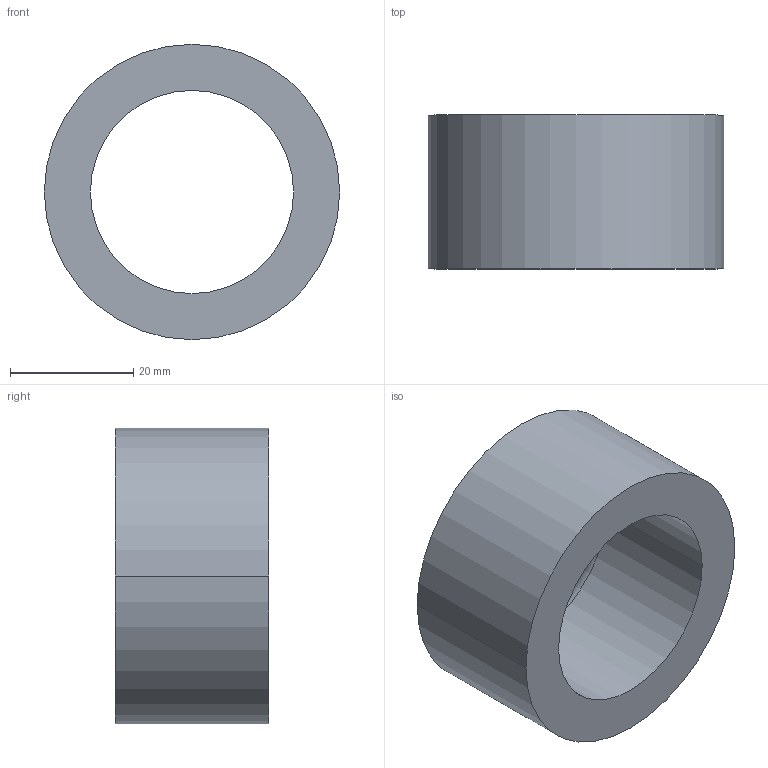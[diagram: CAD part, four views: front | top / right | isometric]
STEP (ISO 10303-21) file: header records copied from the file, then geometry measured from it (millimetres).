
FILE_DESCRIPTION (( 'STEP AP203' ), '1' );
FILE_NAME ('30800.WPP48J33.0.step', '2019-01-23T22:52:37', ( '' ), ( '' ), 'SwSTEP 2.0', 'SolidWorks 2017', '' );
FILE_SCHEMA (( 'CONFIG_CONTROL_DESIGN' ));
Length unit declared in the file: millimetre
Products named in the file (1): 30800.WPP48J33.0
Bounding box: 48 x 25 x 48 mm (x, y, z)
Volume: 23648.1 mm3; surface area: 8140.8 mm2
Topology: 1 solids, 1 shells, 8 faces, 16 edges, 10 vertices
Faces by surface type: cylinder 4, torus 2, plane 2
Entity records: 297 total; most frequent: DIRECTION 46, CARTESIAN_POINT 35, ORIENTED_EDGE 32, AXIS2_PLACEMENT_3D 21, EDGE_CURVE 16, CIRCLE 12, EDGE_LOOP 10, VERTEX_POINT 10
